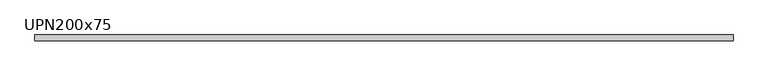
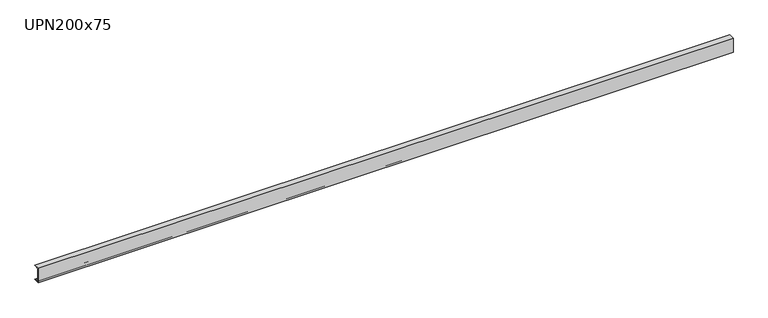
"""IFC4 building model written with IfcOpenShell, lengths in millimetres: beam geometry, M_MC Shapes : UPN200x75."""

from ifc_helpers import new_model, si_unit, point, frame, frame_2d, origin, place, context, project, spatial, polyline, circle_curve, trimmed, segment, composite_curve, outline, extrude, source, transform, mapped, element, save


def upn200x75_6ec22855(model_context):
    return source(origin(), model_context, "Body", "SweptSolid", [
        extrude(outline(composite_curve([segment(polyline([(-10.9, 100.0), (64.1, 100.0), (64.1, 99.0253247)]), True, "CONTINUOUS"), segment(trimmed(circle_curve(frame_2d((60.15, 99.0253247)), 3.95), [point((64.1, 99.0253247))], [point((60.7993773, 95.1290689))], False, "CARTESIAN"), True, "CONTINUOUS"), segment(polyline([(60.7993773, 95.1290689), (0.2512455, 85.0376935)]), True, "CONTINUOUS"), segment(trimmed(circle_curve(frame_2d((1.55, 77.2451819)), 7.9), [point((0.2512455, 85.0376935))], [point((-6.35, 77.2451819))], True, "CARTESIAN"), True, "CONTINUOUS"), segment(polyline([(-6.35, 77.2451819), (-6.35, -77.2451819)]), True, "CONTINUOUS"), segment(trimmed(circle_curve(frame_2d((1.55, -77.2451819)), 7.9), [point((-6.35, -77.2451819))], [point((0.2512455, -85.0376935))], True, "CARTESIAN"), True, "CONTINUOUS"), segment(polyline([(0.2512455, -85.0376935), (60.7993773, -95.1290689)]), True, "CONTINUOUS"), segment(trimmed(circle_curve(frame_2d((60.15, -99.0253247)), 3.95), [point((60.7993773, -95.1290689))], [point((64.1, -99.0253247))], False, "CARTESIAN"), True, "CONTINUOUS"), segment(polyline([(64.1, -99.0253247), (64.1, -100.0), (-10.9, -100.0), (-10.9, 100.0)]), True, "CONTINUOUS")], self_intersect=False)), frame((-4549.35, 0.0, 0.0), z_axis=(1.0, 0.0, 0.0), x_axis=(0.0, 1.0, 0.0)), (0.0, 0.0, 1.0), 9187.2),
    ])


if __name__ == "__main__":
    model = new_model("IFC4")
    model_context = context("Model", 3, world=origin())
    ifc_project = project(units=[si_unit("LENGTHUNIT", "METRE", prefix="MILLI")], contexts=[model_context])
    site = spatial("IfcSite", under=ifc_project)
    building = spatial("IfcBuilding", under=site)
    placement = place(None, origin())
    upn200x75_shape = upn200x75_6ec22855(model_context)
    element("IfcBeam", 1, ObjectType="M_MC Shapes : UPN200x75", at=placement, inside=building, context=model_context, shape_type="MappedRepresentation", body=[
        mapped(upn200x75_shape, transform((0.0, 0.0, 0.0), x_axis=(1.0, 0.0, 0.0), y_axis=(0.0, 1.0, 0.0), z_axis=(0.0, 0.0, 1.0))),
    ])
    save(model, "model.ifc")
